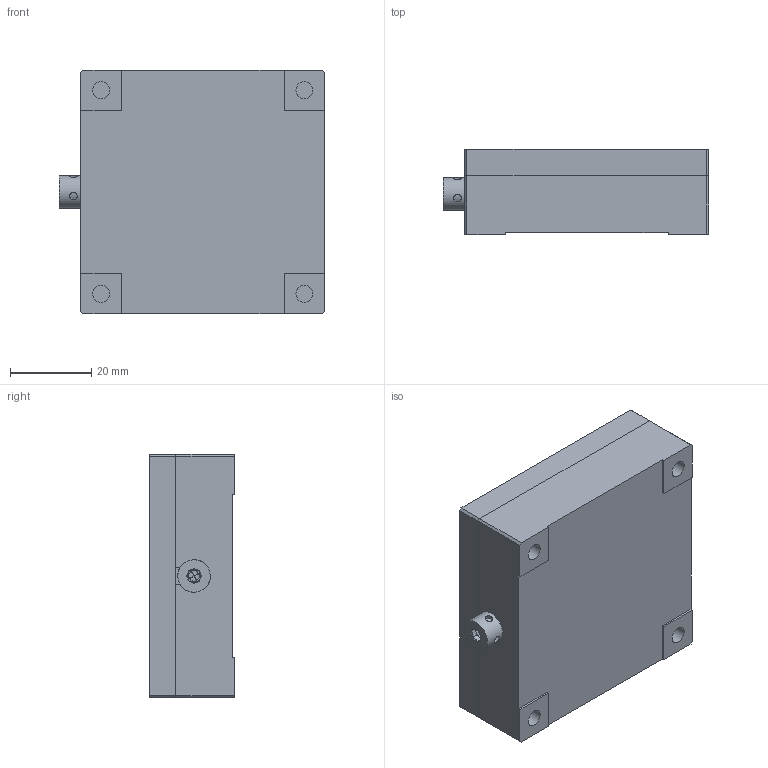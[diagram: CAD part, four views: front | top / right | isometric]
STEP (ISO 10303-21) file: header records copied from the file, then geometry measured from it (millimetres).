
FILE_DESCRIPTION (( 'STEP AP203' ), '1' );
FILE_NAME ('BKA60.STEP', '2024-08-02T02:21:35', ( 'Windows User' ), ( 'P R C' ), 'SwSTEP 2.0', 'SolidWorks 2024', '' );
FILE_SCHEMA (( 'CONFIG_CONTROL_DESIGN' ));
Length unit declared in the file: millimetre
Products named in the file (1): BKA60
Bounding box: 65.3 x 21 x 60 mm (x, y, z)
Volume: 66571 mm3; surface area: 27527.3 mm2
Topology: 4 solids, 4 shells, 161 faces, 416 edges, 271 vertices
Faces by surface type: plane 93, cylinder 50, cone 18
Full cylindrical faces by diameter (mm): 1.9 x4, 2.459 x11, 3.242 x9, 4 x1, 4.001 x1, 4.2 x5, 5 x2, 5.001 x1, 6.001 x1, 8 x6
Entity records: 4713 total; most frequent: CARTESIAN_POINT 1006, DIRECTION 732, ORIENTED_EDGE 670, EDGE_CURVE 335, AXIS2_PLACEMENT_3D 258, EDGE_LOOP 257, VERTEX_POINT 250, VECTOR 216
